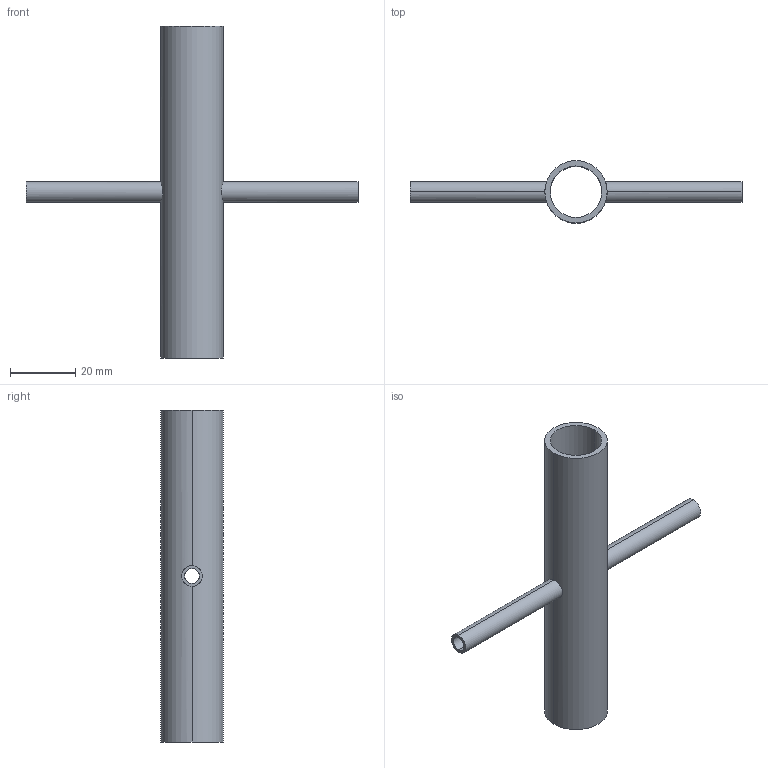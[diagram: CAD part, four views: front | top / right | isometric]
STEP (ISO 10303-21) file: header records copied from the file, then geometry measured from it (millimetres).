
FILE_DESCRIPTION (( 'STEP AP214' ), '1' );
FILE_NAME ('TE9RWWWW6L.75x.25-...STEP', '2016-05-22T04:07:31', ( 'eran' ), ( '' ), 'SwSTEP 2.0', 'SolidWorks 2016', '' );
FILE_SCHEMA (( 'AUTOMOTIVE_DESIGN' ));
Length unit declared in the file: millimetre
Products named in the file (1): TE9RWWWW6L.75x.25-..
Bounding box: 101.6 x 19.05 x 101.6 mm (x, y, z)
Volume: 10379.4 mm3; surface area: 14116.1 mm2
Topology: 1 solids, 1 shells, 16 faces, 40 edges, 24 vertices
Faces by surface type: cylinder 12, plane 4
Entity records: 746 total; most frequent: CARTESIAN_POINT 321, DIRECTION 82, ORIENTED_EDGE 80, EDGE_CURVE 40, AXIS2_PLACEMENT_3D 33, VERTEX_POINT 24, EDGE_LOOP 20, ADVANCED_FACE 16
